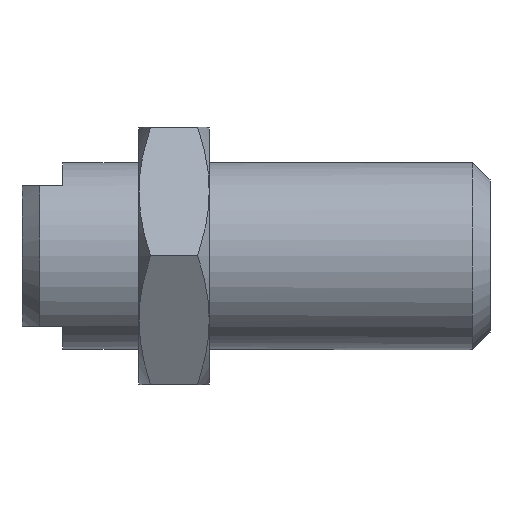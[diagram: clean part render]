
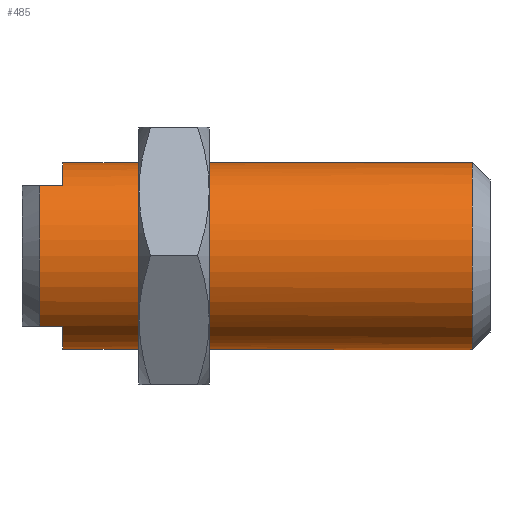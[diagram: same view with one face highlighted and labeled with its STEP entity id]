
A CAD part, top view. The second image highlights one B-rep face of the part: STEP entity #485.
In plain terms, the highlighted cylindrical face has radius 8 mm (diameter 16 mm), a full revolution.
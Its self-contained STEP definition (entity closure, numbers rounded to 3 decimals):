
#26=CYLINDRICAL_SURFACE('',#533,8.);
#49=FACE_BOUND('',#127,.T.);
#57=CIRCLE('',#518,8.);
#58=CIRCLE('',#521,8.);
#62=CIRCLE('',#527,8.);
#64=CIRCLE('',#531,8.);
#66=CIRCLE('',#534,8.);
#90=FACE_OUTER_BOUND('',#126,.T.);
#126=EDGE_LOOP('',(#356,#357,#358,#359,#360,#361,#362,#363));
#127=EDGE_LOOP('',(#364));
#159=LINE('',#732,#173);
#161=LINE('',#736,#175);
#164=LINE('',#757,#178);
#166=LINE('',#760,#180);
#173=VECTOR('',#584,2.);
#175=VECTOR('',#586,2.);
#178=VECTOR('',#595,2.);
#180=VECTOR('',#597,2.);
#215=VERTEX_POINT('',#726);
#217=VERTEX_POINT('',#731);
#218=VERTEX_POINT('',#733);
#219=VERTEX_POINT('',#735);
#222=VERTEX_POINT('',#746);
#224=VERTEX_POINT('',#752);
#225=VERTEX_POINT('',#756);
#226=VERTEX_POINT('',#758);
#229=VERTEX_POINT('',#774);
#260=EDGE_CURVE('',#217,#215,#159,.T.);
#262=EDGE_CURVE('',#219,#218,#161,.T.);
#265=EDGE_CURVE('',#218,#217,#57,.T.);
#269=EDGE_CURVE('',#225,#224,#164,.T.);
#271=EDGE_CURVE('',#222,#226,#166,.T.);
#272=EDGE_CURVE('',#226,#225,#58,.T.);
#276=EDGE_CURVE('',#219,#224,#62,.T.);
#278=EDGE_CURVE('',#229,#229,#64,.T.);
#280=EDGE_CURVE('',#222,#215,#66,.T.);
#356=ORIENTED_EDGE('',*,*,#260,.T.);
#357=ORIENTED_EDGE('',*,*,#280,.F.);
#358=ORIENTED_EDGE('',*,*,#271,.T.);
#359=ORIENTED_EDGE('',*,*,#272,.T.);
#360=ORIENTED_EDGE('',*,*,#269,.T.);
#361=ORIENTED_EDGE('',*,*,#276,.F.);
#362=ORIENTED_EDGE('',*,*,#262,.T.);
#363=ORIENTED_EDGE('',*,*,#265,.T.);
#364=ORIENTED_EDGE('',*,*,#278,.F.);
#485=ADVANCED_FACE('',(#90,#49),#26,.T.);
#518=AXIS2_PLACEMENT_3D('',#743,#590,#591);
#521=AXIS2_PLACEMENT_3D('',#762,#600,#601);
#527=AXIS2_PLACEMENT_3D('',#769,#612,#613);
#531=AXIS2_PLACEMENT_3D('',#775,#620,#621);
#533=AXIS2_PLACEMENT_3D('',#778,#624,#625);
#534=AXIS2_PLACEMENT_3D('',#779,#626,#627);
#584=DIRECTION('',(-1.,0.,0.));
#586=DIRECTION('',(1.,0.,0.));
#590=DIRECTION('center_axis',(1.,0.,0.));
#591=DIRECTION('ref_axis',(0.,1.,0.));
#595=DIRECTION('',(-1.,0.,0.));
#597=DIRECTION('',(1.,0.,0.));
#600=DIRECTION('center_axis',(1.,0.,0.));
#601=DIRECTION('ref_axis',(0.,1.,0.));
#612=DIRECTION('center_axis',(-1.,0.,0.));
#613=DIRECTION('ref_axis',(0.,-1.,0.));
#620=DIRECTION('center_axis',(1.,0.,0.));
#621=DIRECTION('ref_axis',(0.,-1.,0.));
#624=DIRECTION('center_axis',(1.,0.,0.));
#625=DIRECTION('ref_axis',(0.,1.,0.));
#626=DIRECTION('center_axis',(-1.,0.,0.));
#627=DIRECTION('ref_axis',(0.,-1.,0.));
#726=CARTESIAN_POINT('',(1.5,5.292,-6.));
#731=CARTESIAN_POINT('',(3.5,5.292,-6.));
#732=CARTESIAN_POINT('',(20.,5.292,-6.));
#733=CARTESIAN_POINT('',(3.5,-5.292,-6.));
#735=CARTESIAN_POINT('',(1.5,-5.292,-6.));
#736=CARTESIAN_POINT('',(20.,-5.292,-6.));
#743=CARTESIAN_POINT('Origin',(3.5,0.,0.));
#746=CARTESIAN_POINT('',(1.5,5.292,6.));
#752=CARTESIAN_POINT('',(1.5,-5.292,6.));
#756=CARTESIAN_POINT('',(3.5,-5.292,6.));
#757=CARTESIAN_POINT('',(20.,-5.292,6.));
#758=CARTESIAN_POINT('',(3.5,5.292,6.));
#760=CARTESIAN_POINT('',(20.,5.292,6.));
#762=CARTESIAN_POINT('Origin',(3.5,0.,0.));
#769=CARTESIAN_POINT('Origin',(1.5,0.,0.));
#774=CARTESIAN_POINT('',(38.5,8.,0.));
#775=CARTESIAN_POINT('Origin',(38.5,0.,0.));
#778=CARTESIAN_POINT('Origin',(20.,0.,0.));
#779=CARTESIAN_POINT('Origin',(1.5,0.,0.));
